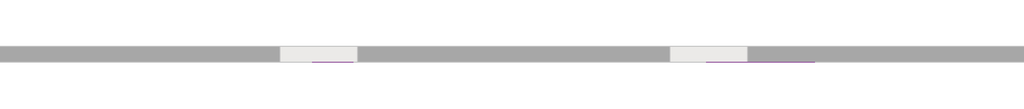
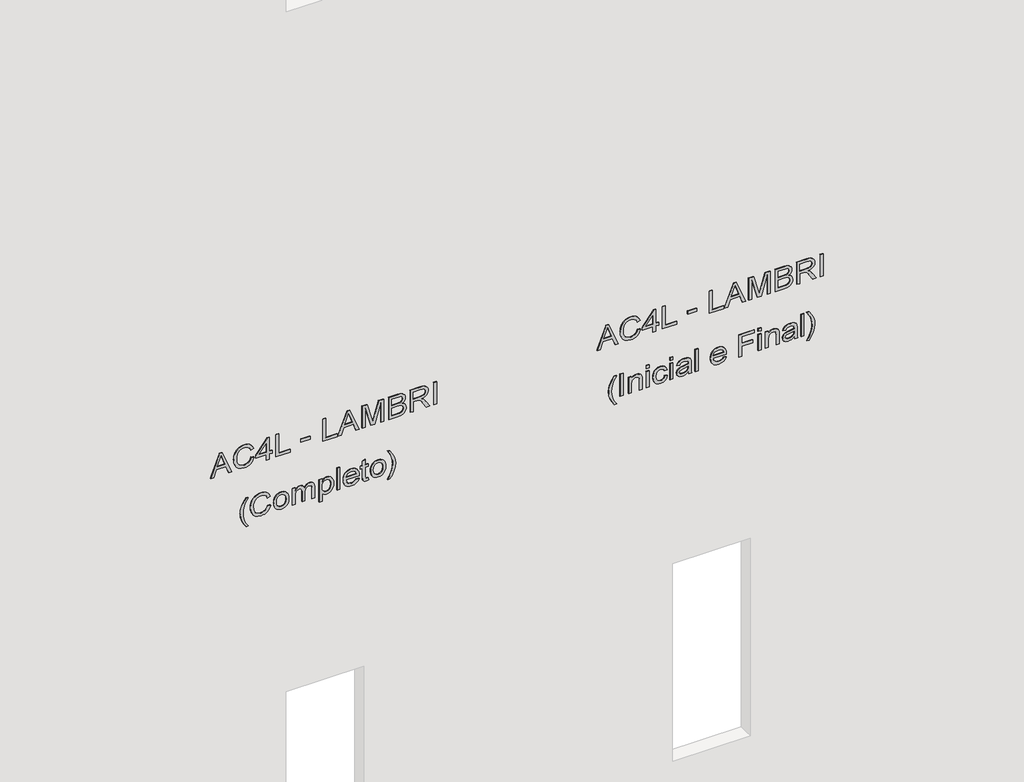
# One storey, part 8 of 11: 2 proxies.
"""IFC4 building model written with IfcOpenShell, lengths in millimetres."""

from ifc_helpers import new_model, si_unit, frame, origin, place, context, project, spatial, polyline, outline, extrude, element, save

model = new_model("IFC4")

# Units and contexts
model_context = context("Model", 3, world=origin())
ifc_project = project(units=[si_unit("LENGTHUNIT", "METRE", prefix="MILLI")], contexts=[model_context])

# Site, building, storey
site = spatial("IfcSite", under=ifc_project)
building = spatial("IfcBuilding", under=site)
storey = spatial("IfcBuildingStorey", under=building, Name="01 - Marelli - Planta Baixa - Painéis Lambri", Elevation=0.0)

# Proxies
placement = place(None, origin())
element("IfcBuildingElementProxy", 1, Name="300mm Arial", ObjectType="300mm Arial", at=placement, inside=storey, context=model_context, shape_type="SweptSolid", body=[
    extrude(outline(polyline([(5965.9244535, 42389.5842548), (5965.9244535, 42429.3890867), (6060.1022443, 42463.8228414), (6060.1022443, 42587.9462266), (5965.9244535, 42622.4535577), (5965.9244535, 42662.2583896), (6267.293384, 42541.9609772), (6267.293384, 42509.8816672), (5965.9244535, 42389.5842548)]), holes=[polyline([(6097.7733606, 42477.6552044), (6178.3395176, 42507.1593405), (6229.6222677, 42525.9213222), (6171.8647944, 42547.0377487), (6097.7733606, 42574.18744), (6097.7733606, 42477.6552044)])]), frame((0.0, 8778.3159498, 0.0), z_axis=(0.0, 1.0, 0.0), x_axis=(0.0, 0.0, 1.0)), (0.0, 0.0, 1.0), 10.0),
    extrude(outline(polyline([(6073.0516905, 42914.4047091), (6040.7884396, 42902.218618), (6017.5750857, 42882.4357637), (6003.5587816, 42856.2333686), (5998.8866803, 42824.7886551), (6002.3171799, 42797.8137078), (6012.6086787, 42772.8069292), (6029.8347531, 42751.94802), (6054.0689796, 42737.4166812), (6084.1617268, 42728.891016), (6118.9633635, 42726.0491276), (6147.3822477, 42728.4495576), (6174.9550032, 42735.6508477), (6199.3455795, 42748.7750378), (6218.2179258, 42768.9441682), (6230.3028494, 42795.5236424), (6234.3311572, 42827.8788639), (6230.6983225, 42855.9482601), (6219.7998184, 42878.793732), (6200.9550632, 42896.6360087), (6173.4834752, 42909.6958196), (6182.4597959, 42947.3669359), (6220.278065, 42930.7294727), (6235.6003501, 42918.9273584), (6248.5314022, 42904.802989), (6258.7999084, 42888.623079), (6266.1345557, 42870.6543428), (6272.0022735, 42829.3503918), (6267.4681279, 42791.4953345), (6253.8656912, 42756.9512152), (6231.526057, 42727.8241582), (6200.7803193, 42706.220288), (6162.8332915, 42692.8385805), (6118.8897871, 42688.3780113), (6077.2271512, 42692.3235457), (6038.3236302, 42704.1601489), (6005.2326447, 42723.54753), (5981.0076153, 42750.1453983), (5966.1635768, 42784.8458675), (5961.215564, 42828.5410514), (5962.8503396, 42850.963459), (5967.7546665, 42871.5832449), (5975.9285445, 42890.4004089), (5987.3719739, 42907.4149512), (6001.9286046, 42922.2911794), (6019.4420868, 42934.6934012), (6039.9124206, 42944.6216165), (6063.3396059, 42952.0758254), (6073.0516905, 42914.4047091)])), frame((0.0, 8778.3159498, 0.0), z_axis=(0.0, 1.0, 0.0), x_axis=(0.0, 0.0, 1.0)), (0.0, 0.0, 1.0), 10.0),
    extrude(outline(polyline([(5965.9244535, 43112.1780697), (5965.9244535, 43149.849186), (6036.5577966, 43149.849186), (6036.5577966, 43187.5203023), (6074.2289129, 43187.5203023), (6074.2289129, 43149.849186), (6262.5844944, 43149.849186), (6262.5844944, 43121.5958488), (6074.2289129, 42975.6202731), (6036.5577966, 42975.6202731), (6036.5577966, 43112.1780697), (5965.9244535, 43112.1780697)]), holes=[polyline([(6074.2289129, 43112.1780697), (6074.2289129, 43021.9734045), (6190.6267762, 43112.1780697), (6074.2289129, 43112.1780697)])]), frame((0.0, 8778.3159498, 0.0), z_axis=(0.0, 1.0, 0.0), x_axis=(0.0, 0.0, 1.0)), (0.0, 0.0, 1.0), 10.0),
    extrude(outline(polyline([(5965.9244535, 43234.6091977), (5965.9244535, 43422.9647792), (6003.5955698, 43422.9647792), (6003.5955698, 43272.280314), (6267.293384, 43272.280314), (6267.293384, 43234.6091977), (5965.9244535, 43234.6091977)])), frame((0.0, 8778.3159498, 0.0), z_axis=(0.0, 1.0, 0.0), x_axis=(0.0, 0.0, 1.0)), (0.0, 0.0, 1.0), 10.0),
    extrude(outline(polyline([(43677.2448143, 8778.3159498), (43559.5225759, 8778.3159498), (43559.5225759, 8788.3159498), (43677.2448143, 8788.3159498), (43677.2448143, 8778.3159498)])), frame((0.0, 0.0, 6055.3933548), z_axis=(0.0, 0.0, 1.0), x_axis=(1.0, 0.0, 0.0)), (0.0, 0.0, 1.0), 37.6711163),
    extrude(outline(polyline([(5965.9244535, 43842.0559482), (5965.9244535, 44030.4115297), (6003.5955698, 44030.4115297), (6003.5955698, 43879.7270645), (6267.293384, 43879.7270645), (6267.293384, 43842.0559482), (5965.9244535, 43842.0559482)])), frame((0.0, 8778.3159498, 0.0), z_axis=(0.0, 1.0, 0.0), x_axis=(0.0, 0.0, 1.0)), (0.0, 0.0, 1.0), 10.0),
    extrude(outline(polyline([(5965.9244535, 44037.6955932), (5965.9244535, 44077.5004251), (6060.1022443, 44111.9341798), (6060.1022443, 44236.057565), (5965.9244535, 44270.5648961), (5965.9244535, 44310.369728), (6267.293384, 44190.0723156), (6267.293384, 44157.9930056), (5965.9244535, 44037.6955932)]), holes=[polyline([(6097.7733606, 44125.7665428), (6178.3395176, 44155.2706788), (6229.6222677, 44174.0326606), (6171.8647944, 44195.1490871), (6097.7733606, 44222.2987784), (6097.7733606, 44125.7665428)])]), frame((0.0, 8778.3159498, 0.0), z_axis=(0.0, 1.0, 0.0), x_axis=(0.0, 0.0, 1.0)), (0.0, 0.0, 1.0), 10.0),
    extrude(outline(polyline([(5965.9244535, 44350.6160183), (5965.9244535, 44388.2871346), (6229.6222677, 44388.2871346), (5965.9244535, 44463.9972492), (5965.9244535, 44515.0592701), (6229.6222677, 44590.7693847), (5965.9244535, 44590.7693847), (5965.9244535, 44628.440501), (6267.293384, 44628.440501), (6267.293384, 44563.6196935), (6058.5571399, 44502.9927407), (6010.5117514, 44489.5282597), (6054.87832, 44477.0938482), (6267.293384, 44415.4368258), (6267.293384, 44350.6160183), (5965.9244535, 44350.6160183)])), frame((0.0, 8778.3159498, 0.0), z_axis=(0.0, 1.0, 0.0), x_axis=(0.0, 0.0, 1.0)), (0.0, 0.0, 1.0), 10.0),
    extrude(outline(polyline([(5965.9244535, 44694.3649546), (5965.9244535, 44808.4819495), (5971.1115897, 44856.7848555), (5977.5311305, 44874.8202703), (5986.4154807, 44889.5631412), (5998.6843452, 44901.6020795), (6015.2574291, 44911.5256963), (6034.7459778, 44918.1751634), (6055.7612368, 44920.3916524), (6080.9795475, 44917.1450938), (6102.6294029, 44907.405418), (6119.5887629, 44891.6324774), (6130.7355874, 44870.2861247), (6142.4802201, 44888.1559926), (6157.407032, 44900.8571185), (6174.4675596, 44908.4446846), (6192.613339, 44910.9738733), (6212.3318139, 44907.966438), (6231.1673721, 44898.9441321), (6247.1794359, 44884.6151284), (6258.4274279, 44865.6875997), (6265.076895, 44840.9935208), (6267.293384, 44809.3648663), (6267.293384, 44694.3649546), (5965.9244535, 44694.3649546)]), holes=[polyline([(6144.862256, 44732.0360709), (6229.6222677, 44732.0360709), (6229.6222677, 44795.6060797), (6225.6859303, 44844.0193502), (6220.084927, 44856.508944), (6211.1545915, 44865.7243879), (6199.7134615, 44871.4081648), (6186.5800742, 44873.302757), (6173.0512139, 44871.270209), (6162.0423452, 44865.1725649), (6153.6822268, 44855.0650071), (6148.0996175, 44841.0027179), (6144.862256, 44800.830004), (6144.862256, 44732.0360709)]), polyline([(6003.5955698, 44732.0360709), (6107.1911397, 44732.0360709), (6107.1911397, 44805.6124699), (6105.9311438, 44832.4402644), (6102.1511563, 44852.1495423), (6095.262566, 44866.0646788), (6084.6767616, 44875.510049), (6071.1387042, 44880.9179143), (6055.3933548, 44882.7205361), (6041.8369032, 44881.1846288), (6030.0094971, 44876.5769068), (6013.2708663, 44860.9051338), (6005.0670978, 44837.2503215), (6003.5955698, 44809.2912899), (6003.5955698, 44732.0360709)])]), frame((0.0, 8778.3159498, 0.0), z_axis=(0.0, 1.0, 0.0), x_axis=(0.0, 0.0, 1.0)), (0.0, 0.0, 1.0), 10.0),
    extrude(outline(polyline([(5965.9244535, 44972.1894373), (5965.9244535, 45009.8605536), (6097.7733606, 45009.8605536), (6097.7733606, 45055.3307682), (6096.4489854, 45077.1829588), (6089.2752865, 45095.0988119), (6069.7407526, 45115.0012279), (6028.3908163, 45143.3281415), (5965.9244535, 45182.5443622), (5965.9244535, 45226.3223196), (6047.5942565, 45176.0696391), (6086.3690188, 45145.5354335), (6102.4822501, 45124.1247013), (6112.4702463, 45161.2347976), (6120.4854753, 45175.6166844), (6130.5148582, 45187.2164635), (6155.1261637, 45202.5295516), (6184.8142407, 45207.6339143), (6208.6805851, 45204.5529025), (6230.3948199, 45195.3098674), (6247.9060028, 45180.9072873), (6259.1631919, 45162.3476406), (6265.260836, 45136.9545859), (6267.293384, 45102.0517816), (6267.293384, 44972.1894373), (5965.9244535, 44972.1894373)]), holes=[polyline([(6135.4444769, 45009.8605536), (6229.6222677, 45009.8605536), (6229.6222677, 45103.6704624), (6226.366512, 45133.4781011), (6216.599245, 45154.0335076), (6201.7919947, 45165.9804753), (6183.4162891, 45169.9627979), (6170.1081579, 45167.8750676), (6157.8484904, 45161.6118767), (6147.7133415, 45151.3295749), (6140.7787658, 45137.1845122), (6136.7780491, 45118.3949393), (6135.4444769, 45094.1791069), (6135.4444769, 45009.8605536)])]), frame((0.0, 8778.3159498, 0.0), z_axis=(0.0, 1.0, 0.0), x_axis=(0.0, 0.0, 1.0)), (0.0, 0.0, 1.0), 10.0),
    extrude(outline(polyline([(45315.9383736, 8778.3159498), (45278.2672573, 8778.3159498), (45278.2672573, 8788.3159498), (45315.9383736, 8788.3159498), (45315.9383736, 8778.3159498)])), frame((0.0, 0.0, 5965.9244535), z_axis=(0.0, 0.0, 1.0), x_axis=(1.0, 0.0, 0.0)), (0.0, 0.0, 1.0), 301.3689304),
    extrude(outline(polyline([(5149.3155348, 42848.4802556), (5149.3155348, 42876.7335928), (5197.5540614, 42847.8916444), (5245.8109821, 42827.2902527), (5294.0862969, 42814.9294176), (5342.3800058, 42810.8091393), (5380.2534572, 42813.1819781), (5417.9429677, 42820.3004948), (5475.7740173, 42841.4904977), (5535.4444769, 42876.7335928), (5535.4444769, 42848.4802556), (5484.934279, 42813.7889834), (5434.2033518, 42789.4719836), (5389.4137189, 42777.2215131), (5342.600735, 42773.138023), (5289.2210575, 42778.6010706), (5237.68079, 42794.9902135), (5190.2791949, 42819.2888193), (5149.3155348, 42848.4802556)])), frame((0.0, 8778.3159498, 0.0), z_axis=(0.0, 1.0, 0.0), x_axis=(0.0, 0.0, 1.0)), (0.0, 0.0, 1.0), 10.0),
    extrude(outline(polyline([(5341.2027835, 43131.0136279), (5308.9395325, 43118.8275368), (5285.7261786, 43099.0446825), (5271.7098746, 43072.8422874), (5267.0377732, 43041.3975739), (5270.4682728, 43014.4226266), (5280.7597717, 42989.4158479), (5297.9858461, 42968.5569388), (5322.2200725, 42954.0256), (5352.3128197, 42945.4999348), (5387.1144565, 42942.6580463), (5415.5333406, 42945.0584764), (5443.1060961, 42952.2597664), (5467.4966724, 42965.3839566), (5486.3690188, 42985.553087), (5498.4539423, 43012.1325611), (5502.4822501, 43044.4877826), (5498.8494154, 43072.5571788), (5487.9509113, 43095.4026507), (5469.1061561, 43113.2449275), (5441.6345681, 43126.3047383), (5450.6108888, 43163.9758546), (5488.4291579, 43147.3383914), (5503.751443, 43135.5362772), (5516.6824952, 43121.4119078), (5526.9510013, 43105.2319978), (5534.2856486, 43087.2632616), (5540.1533665, 43045.9593106), (5535.6192209, 43008.1042533), (5522.0167841, 42973.5601339), (5499.6771499, 42944.433077), (5468.9314122, 42922.8292068), (5430.9843844, 42909.4474992), (5387.0408801, 42904.98693), (5345.3782441, 42908.9324644), (5306.4747231, 42920.7690676), (5273.3837376, 42940.1564488), (5249.1587083, 42966.754317), (5234.3146698, 43001.4547862), (5229.3666569, 43045.1499702), (5231.0014325, 43067.5723778), (5235.9057594, 43088.1921636), (5244.0796375, 43107.0093277), (5255.5230668, 43124.02387), (5270.0796975, 43138.9000981), (5287.5931797, 43151.3023199), (5308.0635135, 43161.2305353), (5331.4906988, 43168.6847442), (5341.2027835, 43131.0136279)])), frame((0.0, 8778.3159498, 0.0), z_axis=(0.0, 1.0, 0.0), x_axis=(0.0, 0.0, 1.0)), (0.0, 0.0, 1.0), 10.0),
    extrude(outline(polyline([(5344.7344506, 43206.3558605), (5318.4124939, 43208.0642125), (5295.3646869, 43213.1892685), (5275.5910296, 43221.7310286), (5259.0915221, 43233.6894927), (5246.0868936, 43248.4162688), (5236.7978732, 43265.262965), (5231.224461, 43284.2295811), (5229.3666569, 43305.3161172), (5232.7419742, 43331.9047884), (5242.8679261, 43356.3413499), (5259.1007192, 43376.9151505), (5280.7965599, 43391.9155389), (5309.767267, 43401.0758005), (5347.8246594, 43404.1292211), (5372.7049786, 43402.402475), (5394.7388108, 43397.2222366), (5413.9261561, 43388.5885061), (5430.2670145, 43376.5012833), (5443.3199275, 43361.6917337), (5452.6434368, 43344.8910228), (5458.2375424, 43326.0991507), (5460.1022443, 43305.3161172), (5458.5709355, 43286.4897561), (5453.9770091, 43269.1533171), (5446.3204651, 43253.3068001), (5435.6013034, 43238.9502053), (5418.830483, 43224.6901794), (5398.095734, 43214.5044467), (5373.3970566, 43208.393007), (5344.7344506, 43206.3558605)]), holes=[polyline([(5344.808027, 43244.0269768), (5378.8830968, 43248.3863784), (5403.1173232, 43261.4645834), (5417.6026768, 43281.1462701), (5422.431128, 43305.3161172), (5417.5842827, 43329.2376439), (5403.0437468, 43348.9101336), (5379.0854319, 43362.071112), (5345.9852494, 43366.4581048), (5311.1468245, 43362.0987031), (5286.535519, 43349.0204982), (5271.9122097, 43329.3755997), (5267.0377732, 43305.3161172), (5271.8846185, 43281.1462701), (5286.4251544, 43261.4645834), (5310.7145631, 43248.3863784), (5344.808027, 43244.0269768)])]), frame((0.0, 8778.3159498, 0.0), z_axis=(0.0, 1.0, 0.0), x_axis=(0.0, 0.0, 1.0)), (0.0, 0.0, 1.0), 10.0),
    extrude(outline(polyline([(5234.0755465, 43446.5092269), (5234.0755465, 43484.1803432), (5345.6909438, 43484.1803432), (5371.6082304, 43485.615083), (5390.6461236, 43489.9193024), (5404.368122, 43497.4240951), (5414.3377241, 43508.4605549), (5420.407777, 43521.8330655), (5422.431128, 43536.3460102), (5419.3961015, 43553.4249318), (5410.2910222, 43564.9304412), (5395.0974958, 43571.4695437), (5373.7971282, 43573.6492445), (5234.0755465, 43573.6492445), (5234.0755465, 43611.3203608), (5359.008272, 43611.3203608), (5387.7214617, 43615.0083778), (5407.3479662, 43626.0724288), (5418.6603375, 43642.709892), (5422.431128, 43663.1181457), (5420.9596, 43674.6788374), (5416.5450161, 43684.6392424), (5409.7300021, 43692.3831584), (5401.0571841, 43697.2943831), (5369.6032735, 43700.789262), (5234.0755465, 43700.789262), (5234.0755465, 43738.4603783), (5385.7900813, 43738.4603783), (5418.7615051, 43734.1469619), (5441.8920855, 43721.2067127), (5455.5497046, 43700.2650302), (5460.1022443, 43671.9473136), (5457.366122, 43652.4219767), (5449.1577549, 43634.8280203), (5435.4771432, 43619.1654443), (5416.3242869, 43605.4342489), (5434.7643719, 43597.2304804), (5448.5875379, 43584.6857043), (5457.2235677, 43567.8918912), (5460.1022443, 43546.9410116), (5457.27875, 43527.3880836), (5448.808267, 43510.0792357), (5435.702471, 43495.5111087), (5418.9730372, 43484.1803432), (5455.3933548, 43484.1803432), (5455.3933548, 43446.5092269), (5234.0755465, 43446.5092269)])), frame((0.0, 8778.3159498, 0.0), z_axis=(0.0, 1.0, 0.0), x_axis=(0.0, 0.0, 1.0)), (0.0, 0.0, 1.0), 10.0),
    extrude(outline(polyline([(5149.3155348, 43794.9670528), (5149.3155348, 43832.6381691), (5263.5061061, 43832.6381691), (5249.9956398, 43843.2791558), (5239.0419534, 43856.5137106), (5231.785481, 43871.9739514), (5229.3666569, 43889.2919963), (5232.9810975, 43913.7101638), (5243.8244193, 43936.9327147), (5261.4459669, 43956.8719188), (5285.3950848, 43971.4400459), (5314.2094421, 43980.3519872), (5346.4267078, 43983.3226343), (5376.7217901, 43980.692278), (5404.4784866, 43972.8012092), (5427.9861461, 43959.7413984), (5445.5341173, 43941.604816), (5456.4602125, 43919.3295612), (5460.1022443, 43893.8537331), (5457.4994792, 43874.7238693), (5449.6911838, 43858.6842143), (5436.6773583, 43844.9254277), (5418.4580024, 43832.6381691), (5455.3933548, 43832.6381691), (5455.3933548, 43794.9670528), (5149.3155348, 43794.9670528)]), holes=[polyline([(5342.968617, 43832.6381691), (5377.1356573, 43836.9883737), (5402.0872537, 43850.0389874), (5417.3451594, 43868.7365899), (5422.431128, 43890.0277603), (5417.6486621, 43911.2361573), (5403.3012642, 43929.243981), (5379.3521464, 43941.5496337), (5345.7645202, 43945.651518), (5310.7237602, 43941.4484662), (5286.2412134, 43928.8393108), (5271.8386333, 43910.3440435), (5267.0377732, 43888.4826559), (5271.6730864, 43866.9707563), (5285.5790258, 43848.9353415), (5309.1970499, 43836.7124622), (5342.968617, 43832.6381691)])]), frame((0.0, 8778.3159498, 0.0), z_axis=(0.0, 1.0, 0.0), x_axis=(0.0, 0.0, 1.0)), (0.0, 0.0, 1.0), 10.0),
    extrude(outline(polyline([(44063.3737565, 8778.3159498), (44025.7026401, 8778.3159498), (44025.7026401, 8788.3159498), (44063.3737565, 8788.3159498), (44063.3737565, 8778.3159498)])), frame((0.0, 0.0, 5234.0755465), z_axis=(0.0, 0.0, 1.0), x_axis=(1.0, 0.0, 0.0)), (0.0, 0.0, 1.0), 301.3689304),
    extrude(outline(polyline([(5300.0, 44274.8323273), (5285.1191733, 44264.274114), (5274.9104479, 44250.5521156), (5269.0059419, 44233.666332), (5267.0377732, 44213.6167633), (5271.2868103, 44186.9545157), (5284.0339214, 44165.0931281), (5304.7640718, 44149.945587), (5332.9622268, 44143.4248786), (5332.9622268, 44312.7241728), (5343.1157698, 44312.944902), (5369.3687487, 44311.158375), (5392.5039277, 44305.7987942), (5412.5213067, 44296.8661595), (5429.4208859, 44284.360471), (5442.8439802, 44269.0404851), (5452.4319047, 44251.6649586), (5458.1846594, 44232.2338915), (5460.1022443, 44210.7472837), (5458.1800609, 44188.5456053), (5452.4135106, 44168.5144307), (5442.8025935, 44150.6537598), (5429.3473095, 44134.9635927), (5412.4109422, 44122.1842919), (5392.3567749, 44113.0562199), (5369.1848077, 44107.5793767), (5342.8950406, 44105.7537623), (5317.467497, 44107.5609826), (5295.0427901, 44112.9826435), (5275.62092, 44122.018745), (5259.2018867, 44134.6692871), (5246.1489737, 44150.4008409), (5236.8254644, 44168.6799776), (5231.2313588, 44189.506697), (5229.3666569, 44212.8809993), (5233.6892704, 44248.5379617), (5246.6571107, 44277.2235602), (5267.4608375, 44298.4595484), (5295.2911105, 44311.7676796), (5300.0, 44274.8323273)]), holes=[polyline([(5370.6333431, 44143.4248786), (5391.8693312, 44149.6144932), (5408.3412476, 44164.2102113), (5418.9086579, 44185.2070762), (5422.431128, 44210.6001309), (5418.0165441, 44238.2280688), (5404.7727922, 44260.1906239), (5390.535759, 44270.17862), (5370.6333431, 44275.2737857), (5370.6333431, 44143.4248786)])]), frame((0.0, 8778.3159498, 0.0), z_axis=(0.0, 1.0, 0.0), x_axis=(0.0, 0.0, 1.0)), (0.0, 0.0, 1.0), 10.0),
    extrude(outline(polyline([(5265.4926689, 44430.6671404), (5267.0377732, 44414.2596035), (5269.576159, 44401.4205218), (5276.4555523, 44394.9825869), (5295.8797217, 44392.9960241), (5417.7222385, 44392.9960241), (5417.7222385, 44430.6671404), (5455.3933548, 44430.6671404), (5455.3933548, 44392.9960241), (5531.3241986, 44392.9960241), (5509.1777025, 44355.3249078), (5455.3933548, 44355.3249078), (5455.3933548, 44327.0715706), (5417.7222385, 44327.0715706), (5417.7222385, 44355.3249078), (5294.7760757, 44355.3249078), (5267.7919313, 44356.465342), (5252.0281878, 44359.8866446), (5242.849532, 44366.1038503), (5235.6206508, 44375.631994), (5230.9301554, 44389.1148691), (5229.3666569, 44407.1962691), (5232.9719005, 44435.37603), (5265.4926689, 44430.6671404)])), frame((0.0, 8778.3159498, 0.0), z_axis=(0.0, 1.0, 0.0), x_axis=(0.0, 0.0, 1.0)), (0.0, 0.0, 1.0), 10.0),
    extrude(outline(polyline([(5344.7344506, 44458.9204777), (5318.4124939, 44460.6288297), (5295.3646869, 44465.7538857), (5275.5910296, 44474.2956458), (5259.0915221, 44486.2541099), (5246.0868936, 44500.980886), (5236.7978732, 44517.8275821), (5231.224461, 44536.7941983), (5229.3666569, 44557.8807344), (5232.7419742, 44584.4694056), (5242.8679261, 44608.9059671), (5259.1007192, 44629.4797677), (5280.7965599, 44644.480156), (5309.767267, 44653.6404177), (5347.8246594, 44656.6938383), (5372.7049786, 44654.9670922), (5394.7388108, 44649.7868538), (5413.9261561, 44641.1531232), (5430.2670145, 44629.0659004), (5443.3199275, 44614.2563509), (5452.6434368, 44597.45564), (5458.2375424, 44578.6637678), (5460.1022443, 44557.8807344), (5458.5709355, 44539.0543733), (5453.9770091, 44521.7179342), (5446.3204651, 44505.8714173), (5435.6013034, 44491.5148224), (5418.830483, 44477.2547966), (5398.095734, 44467.0690639), (5373.3970566, 44460.9576242), (5344.7344506, 44458.9204777)]), holes=[polyline([(5344.808027, 44496.591594), (5378.8830968, 44500.9509956), (5403.1173232, 44514.0292005), (5417.6026768, 44533.7108873), (5422.431128, 44557.8807344), (5417.5842827, 44581.8022611), (5403.0437468, 44601.4747508), (5379.0854319, 44614.6357292), (5345.9852494, 44619.022722), (5311.1468245, 44614.6633203), (5286.535519, 44601.5851154), (5271.9122097, 44581.9402169), (5267.0377732, 44557.8807344), (5271.8846185, 44533.7108873), (5286.4251544, 44514.0292005), (5310.7145631, 44500.9509956), (5344.808027, 44496.591594)])]), frame((0.0, 8778.3159498, 0.0), z_axis=(0.0, 1.0, 0.0), x_axis=(0.0, 0.0, 1.0)), (0.0, 0.0, 1.0), 10.0),
    extrude(outline(polyline([(5149.3155348, 44708.4916232), (5190.2791949, 44737.5451038), (5237.68079, 44761.8713007), (5289.2210575, 44778.343217), (5342.600735, 44783.8338558), (5389.4137189, 44779.7503657), (5434.2033518, 44767.4998952), (5484.934279, 44743.1828953), (5535.4444769, 44708.4916232), (5535.4444769, 44680.238286), (5475.1854061, 44715.7021103), (5446.8400984, 44727.6766692), (5417.2807801, 44736.671384), (5379.9775458, 44743.7899006), (5342.3800058, 44746.1627395), (5294.0862969, 44742.0424612), (5245.8109821, 44729.6816261), (5197.5540614, 44709.0802344), (5149.3155348, 44680.238286), (5149.3155348, 44708.4916232)])), frame((0.0, 8778.3159498, 0.0), z_axis=(0.0, 1.0, 0.0), x_axis=(0.0, 0.0, 1.0)), (0.0, 0.0, 1.0), 10.0),
])
element("IfcBuildingElementProxy", 2, Name="300mm Arial", ObjectType="300mm Arial", at=placement, inside=storey, context=model_context, shape_type="SweptSolid", body=[
    extrude(outline(polyline([(5965.9244535, 47389.5842548), (5965.9244535, 47429.3890867), (6060.1022443, 47463.8228414), (6060.1022443, 47587.9462266), (5965.9244535, 47622.4535577), (5965.9244535, 47662.2583896), (6267.293384, 47541.9609772), (6267.293384, 47509.8816672), (5965.9244535, 47389.5842548)]), holes=[polyline([(6097.7733606, 47477.6552044), (6178.3395176, 47507.1593405), (6229.6222677, 47525.9213222), (6171.8647944, 47547.0377487), (6097.7733606, 47574.18744), (6097.7733606, 47477.6552044)])]), frame((0.0, 8778.3159498, 0.0), z_axis=(0.0, 1.0, 0.0), x_axis=(0.0, 0.0, 1.0)), (0.0, 0.0, 1.0), 10.0),
    extrude(outline(polyline([(6073.0516905, 47914.4047091), (6040.7884396, 47902.218618), (6017.5750857, 47882.4357637), (6003.5587816, 47856.2333686), (5998.8866803, 47824.7886551), (6002.3171799, 47797.8137078), (6012.6086787, 47772.8069292), (6029.8347531, 47751.94802), (6054.0689796, 47737.4166812), (6084.1617268, 47728.891016), (6118.9633635, 47726.0491276), (6147.3822477, 47728.4495576), (6174.9550032, 47735.6508477), (6199.3455795, 47748.7750378), (6218.2179258, 47768.9441682), (6230.3028494, 47795.5236424), (6234.3311572, 47827.8788639), (6230.6983225, 47855.9482601), (6219.7998184, 47878.793732), (6200.9550632, 47896.6360087), (6173.4834752, 47909.6958196), (6182.4597959, 47947.3669359), (6220.278065, 47930.7294727), (6235.6003501, 47918.9273584), (6248.5314022, 47904.802989), (6258.7999084, 47888.623079), (6266.1345557, 47870.6543428), (6272.0022735, 47829.3503918), (6267.4681279, 47791.4953345), (6253.8656912, 47756.9512152), (6231.526057, 47727.8241582), (6200.7803193, 47706.220288), (6162.8332915, 47692.8385805), (6118.8897871, 47688.3780113), (6077.2271512, 47692.3235457), (6038.3236302, 47704.1601489), (6005.2326447, 47723.54753), (5981.0076153, 47750.1453983), (5966.1635768, 47784.8458675), (5961.215564, 47828.5410514), (5962.8503396, 47850.963459), (5967.7546665, 47871.5832449), (5975.9285445, 47890.4004089), (5987.3719739, 47907.4149512), (6001.9286046, 47922.2911794), (6019.4420868, 47934.6934012), (6039.9124206, 47944.6216165), (6063.3396059, 47952.0758254), (6073.0516905, 47914.4047091)])), frame((0.0, 8778.3159498, 0.0), z_axis=(0.0, 1.0, 0.0), x_axis=(0.0, 0.0, 1.0)), (0.0, 0.0, 1.0), 10.0),
    extrude(outline(polyline([(5965.9244535, 48112.1780697), (5965.9244535, 48149.849186), (6036.5577966, 48149.849186), (6036.5577966, 48187.5203023), (6074.2289129, 48187.5203023), (6074.2289129, 48149.849186), (6262.5844944, 48149.849186), (6262.5844944, 48121.5958488), (6074.2289129, 47975.6202731), (6036.5577966, 47975.6202731), (6036.5577966, 48112.1780697), (5965.9244535, 48112.1780697)]), holes=[polyline([(6074.2289129, 48112.1780697), (6074.2289129, 48021.9734045), (6190.6267762, 48112.1780697), (6074.2289129, 48112.1780697)])]), frame((0.0, 8778.3159498, 0.0), z_axis=(0.0, 1.0, 0.0), x_axis=(0.0, 0.0, 1.0)), (0.0, 0.0, 1.0), 10.0),
    extrude(outline(polyline([(5965.9244535, 48234.6091977), (5965.9244535, 48422.9647792), (6003.5955698, 48422.9647792), (6003.5955698, 48272.280314), (6267.293384, 48272.280314), (6267.293384, 48234.6091977), (5965.9244535, 48234.6091977)])), frame((0.0, 8778.3159498, 0.0), z_axis=(0.0, 1.0, 0.0), x_axis=(0.0, 0.0, 1.0)), (0.0, 0.0, 1.0), 10.0),
    extrude(outline(polyline([(48677.2448143, 8778.3159498), (48559.5225759, 8778.3159498), (48559.5225759, 8788.3159498), (48677.2448143, 8788.3159498), (48677.2448143, 8778.3159498)])), frame((0.0, 0.0, 6055.3933548), z_axis=(0.0, 0.0, 1.0), x_axis=(1.0, 0.0, 0.0)), (0.0, 0.0, 1.0), 37.6711163),
    extrude(outline(polyline([(5965.9244535, 48842.0559482), (5965.9244535, 49030.4115297), (6003.5955698, 49030.4115297), (6003.5955698, 48879.7270645), (6267.293384, 48879.7270645), (6267.293384, 48842.0559482), (5965.9244535, 48842.0559482)])), frame((0.0, 8778.3159498, 0.0), z_axis=(0.0, 1.0, 0.0), x_axis=(0.0, 0.0, 1.0)), (0.0, 0.0, 1.0), 10.0),
    extrude(outline(polyline([(5965.9244535, 49037.6955932), (5965.9244535, 49077.5004251), (6060.1022443, 49111.9341798), (6060.1022443, 49236.057565), (5965.9244535, 49270.5648961), (5965.9244535, 49310.369728), (6267.293384, 49190.0723156), (6267.293384, 49157.9930056), (5965.9244535, 49037.6955932)]), holes=[polyline([(6097.7733606, 49125.7665428), (6178.3395176, 49155.2706788), (6229.6222677, 49174.0326606), (6171.8647944, 49195.1490871), (6097.7733606, 49222.2987784), (6097.7733606, 49125.7665428)])]), frame((0.0, 8778.3159498, 0.0), z_axis=(0.0, 1.0, 0.0), x_axis=(0.0, 0.0, 1.0)), (0.0, 0.0, 1.0), 10.0),
    extrude(outline(polyline([(5965.9244535, 49350.6160183), (5965.9244535, 49388.2871346), (6229.6222677, 49388.2871346), (5965.9244535, 49463.9972492), (5965.9244535, 49515.0592701), (6229.6222677, 49590.7693847), (5965.9244535, 49590.7693847), (5965.9244535, 49628.440501), (6267.293384, 49628.440501), (6267.293384, 49563.6196935), (6058.5571399, 49502.9927407), (6010.5117514, 49489.5282597), (6054.87832, 49477.0938482), (6267.293384, 49415.4368258), (6267.293384, 49350.6160183), (5965.9244535, 49350.6160183)])), frame((0.0, 8778.3159498, 0.0), z_axis=(0.0, 1.0, 0.0), x_axis=(0.0, 0.0, 1.0)), (0.0, 0.0, 1.0), 10.0),
    extrude(outline(polyline([(5965.9244535, 49694.3649546), (5965.9244535, 49808.4819495), (5971.1115897, 49856.7848555), (5977.5311305, 49874.8202703), (5986.4154807, 49889.5631412), (5998.6843452, 49901.6020795), (6015.2574291, 49911.5256963), (6034.7459778, 49918.1751634), (6055.7612368, 49920.3916524), (6080.9795475, 49917.1450938), (6102.6294029, 49907.405418), (6119.5887629, 49891.6324774), (6130.7355874, 49870.2861247), (6142.4802201, 49888.1559926), (6157.407032, 49900.8571185), (6174.4675596, 49908.4446846), (6192.613339, 49910.9738733), (6212.3318139, 49907.966438), (6231.1673721, 49898.9441321), (6247.1794359, 49884.6151284), (6258.4274279, 49865.6875997), (6265.076895, 49840.9935208), (6267.293384, 49809.3648663), (6267.293384, 49694.3649546), (5965.9244535, 49694.3649546)]), holes=[polyline([(6144.862256, 49732.0360709), (6229.6222677, 49732.0360709), (6229.6222677, 49795.6060797), (6225.6859303, 49844.0193502), (6220.084927, 49856.508944), (6211.1545915, 49865.7243879), (6199.7134615, 49871.4081648), (6186.5800742, 49873.302757), (6173.0512139, 49871.270209), (6162.0423452, 49865.1725649), (6153.6822268, 49855.0650071), (6148.0996175, 49841.0027179), (6144.862256, 49800.830004), (6144.862256, 49732.0360709)]), polyline([(6003.5955698, 49732.0360709), (6107.1911397, 49732.0360709), (6107.1911397, 49805.6124699), (6105.9311438, 49832.4402644), (6102.1511563, 49852.1495423), (6095.262566, 49866.0646788), (6084.6767616, 49875.510049), (6071.1387042, 49880.9179143), (6055.3933548, 49882.7205361), (6041.8369032, 49881.1846288), (6030.0094971, 49876.5769068), (6013.2708663, 49860.9051338), (6005.0670978, 49837.2503215), (6003.5955698, 49809.2912899), (6003.5955698, 49732.0360709)])]), frame((0.0, 8778.3159498, 0.0), z_axis=(0.0, 1.0, 0.0), x_axis=(0.0, 0.0, 1.0)), (0.0, 0.0, 1.0), 10.0),
    extrude(outline(polyline([(5965.9244535, 49972.1894373), (5965.9244535, 50009.8605536), (6097.7733606, 50009.8605536), (6097.7733606, 50055.3307682), (6096.4489854, 50077.1829588), (6089.2752865, 50095.0988119), (6069.7407526, 50115.0012279), (6028.3908163, 50143.3281415), (5965.9244535, 50182.5443622), (5965.9244535, 50226.3223196), (6047.5942565, 50176.0696391), (6086.3690188, 50145.5354335), (6102.4822501, 50124.1247013), (6112.4702463, 50161.2347976), (6120.4854753, 50175.6166844), (6130.5148582, 50187.2164635), (6155.1261637, 50202.5295516), (6184.8142407, 50207.6339143), (6208.6805851, 50204.5529025), (6230.3948199, 50195.3098674), (6247.9060028, 50180.9072873), (6259.1631919, 50162.3476406), (6265.260836, 50136.9545859), (6267.293384, 50102.0517816), (6267.293384, 49972.1894373), (5965.9244535, 49972.1894373)]), holes=[polyline([(6135.4444769, 50009.8605536), (6229.6222677, 50009.8605536), (6229.6222677, 50103.6704624), (6226.366512, 50133.4781011), (6216.599245, 50154.0335076), (6201.7919947, 50165.9804753), (6183.4162891, 50169.9627979), (6170.1081579, 50167.8750676), (6157.8484904, 50161.6118767), (6147.7133415, 50151.3295749), (6140.7787658, 50137.1845122), (6136.7780491, 50118.3949393), (6135.4444769, 50094.1791069), (6135.4444769, 50009.8605536)])]), frame((0.0, 8778.3159498, 0.0), z_axis=(0.0, 1.0, 0.0), x_axis=(0.0, 0.0, 1.0)), (0.0, 0.0, 1.0), 10.0),
    extrude(outline(polyline([(50315.9383736, 8778.3159498), (50278.2672573, 8778.3159498), (50278.2672573, 8788.3159498), (50315.9383736, 8788.3159498), (50315.9383736, 8778.3159498)])), frame((0.0, 0.0, 5965.9244535), z_axis=(0.0, 0.0, 1.0), x_axis=(1.0, 0.0, 0.0)), (0.0, 0.0, 1.0), 301.3689304),
    extrude(outline(polyline([(5149.3155348, 47613.0357787), (5149.3155348, 47641.2891159), (5197.5540614, 47612.4471675), (5245.8109821, 47591.8457757), (5294.0862969, 47579.4849407), (5342.3800058, 47575.3646624), (5380.2534572, 47577.7375012), (5417.9429677, 47584.8560178), (5475.7740173, 47606.0460208), (5535.4444769, 47641.2891159), (5535.4444769, 47613.0357787), (5484.934279, 47578.3445065), (5434.2033518, 47554.0275066), (5389.4137189, 47541.7770362), (5342.600735, 47537.6935461), (5289.2210575, 47543.1565937), (5237.68079, 47559.5457366), (5190.2791949, 47583.8443424), (5149.3155348, 47613.0357787)])), frame((0.0, 8778.3159498, 0.0), z_axis=(0.0, 1.0, 0.0), x_axis=(0.0, 0.0, 1.0)), (0.0, 0.0, 1.0), 10.0),
    extrude(outline(polyline([(47726.0491276, 8778.3159498), (47688.3780113, 8778.3159498), (47688.3780113, 8788.3159498), (47726.0491276, 8788.3159498), (47726.0491276, 8778.3159498)])), frame((0.0, 0.0, 5234.0755465), z_axis=(0.0, 0.0, 1.0), x_axis=(1.0, 0.0, 0.0)), (0.0, 0.0, 1.0), 301.3689304),
    extrude(outline(polyline([(5234.0755465, 47796.6824707), (5234.0755465, 47834.353587), (5351.5034793, 47834.353587), (5386.2131456, 47838.6486093), (5398.5877762, 47844.0173871), (5407.6422718, 47851.5336761), (5418.7339139, 47870.3416431), (5422.431128, 47892.4053658), (5420.7848561, 47906.3021082), (5415.8460403, 47918.2674701), (5408.1481095, 47927.6024757), (5398.2244927, 47933.6081493), (5364.8943839, 47937.9491568), (5234.0755465, 47937.9491568), (5234.0755465, 47975.6202731), (5369.9711555, 47975.6202731), (5406.391473, 47973.6337103), (5434.0929872, 47962.3397331), (5444.6328064, 47952.2413723), (5452.9285454, 47938.0595214), (5458.3088196, 47921.0541762), (5460.1022443, 47902.4853325), (5457.8765582, 47881.5068617), (5451.1995, 47863.1587472), (5440.0710697, 47847.4409889), (5424.4912672, 47834.353587), (5455.3933548, 47834.353587), (5455.3933548, 47796.6824707), (5234.0755465, 47796.6824707)])), frame((0.0, 8778.3159498, 0.0), z_axis=(0.0, 1.0, 0.0), x_axis=(0.0, 0.0, 1.0)), (0.0, 0.0, 1.0), 10.0),
    extrude(outline(polyline([(48065.0891743, 8778.3159498), (48027.418058, 8778.3159498), (48027.418058, 8788.3159498), (48065.0891743, 8788.3159498), (48065.0891743, 8778.3159498)])), frame((0.0, 0.0, 5497.7733606), z_axis=(0.0, 0.0, 1.0), x_axis=(1.0, 0.0, 0.0)), (0.0, 0.0, 1.0), 37.6711163),
    extrude(outline(polyline([(48065.0891743, 8778.3159498), (48027.418058, 8778.3159498), (48027.418058, 8788.3159498), (48065.0891743, 8788.3159498), (48065.0891743, 8778.3159498)])), frame((0.0, 0.0, 5234.0755465), z_axis=(0.0, 0.0, 1.0), x_axis=(1.0, 0.0, 0.0)), (0.0, 0.0, 1.0), 221.3178083),
    extrude(outline(polyline([(5314.1266686, 48262.8625349), (5293.2493654, 48256.4337971), (5278.5892679, 48244.799529), (5269.9256469, 48228.8058592), (5267.0377732, 48209.2989165), (5271.6638893, 48185.2670251), (5285.5422376, 48166.2935112), (5309.6477053, 48153.9602673), (5344.9551798, 48149.849186), (5379.7936048, 48154.0522378), (5403.816299, 48166.6613932), (5417.7774208, 48185.984395), (5422.431128, 48210.328986), (5420.0674862, 48226.8192965), (5412.9765607, 48240.6792506), (5401.1951398, 48251.3202373), (5384.7600117, 48258.1536454), (5389.4689012, 48295.8247617), (5419.4512838, 48285.5700511), (5441.7081445, 48267.3139071), (5455.5037194, 48241.8656701), (5460.1022443, 48210.0346804), (5456.7545181, 48183.3908269), (5446.7113397, 48158.7887185), (5429.9635118, 48138.224115), (5406.5018376, 48123.6927762), (5377.448357, 48115.0567463), (5343.9251102, 48112.1780697), (5317.8675687, 48113.8634291), (5295.024396, 48118.9195073), (5275.3955923, 48127.3463042), (5258.9811575, 48139.14382), (5246.0248135, 48153.7188448), (5236.7702821, 48170.4781689), (5231.2175632, 48189.4217924), (5229.3666569, 48210.5497152), (5234.6733547, 48243.1808482), (5250.593448, 48270.2937513), (5275.9129264, 48290.0306203), (5309.4177791, 48300.5336513), (5314.1266686, 48262.8625349)])), frame((0.0, 8778.3159498, 0.0), z_axis=(0.0, 1.0, 0.0), x_axis=(0.0, 0.0, 1.0)), (0.0, 0.0, 1.0), 10.0),
    extrude(outline(polyline([(48371.1669943, 8778.3159498), (48333.495878, 8778.3159498), (48333.495878, 8788.3159498), (48371.1669943, 8788.3159498), (48371.1669943, 8778.3159498)])), frame((0.0, 0.0, 5497.7733606), z_axis=(0.0, 0.0, 1.0), x_axis=(1.0, 0.0, 0.0)), (0.0, 0.0, 1.0), 37.6711163),
    extrude(outline(polyline([(48371.1669943, 8778.3159498), (48333.495878, 8778.3159498), (48333.495878, 8788.3159498), (48371.1669943, 8788.3159498), (48371.1669943, 8778.3159498)])), frame((0.0, 0.0, 5234.0755465), z_axis=(0.0, 0.0, 1.0), x_axis=(1.0, 0.0, 0.0)), (0.0, 0.0, 1.0), 221.3178083),
    extrude(outline(polyline([(5262.3288837, 48568.9403549), (5234.0755465, 48578.358134), (5234.0755465, 48616.0292503), (5265.7501862, 48608.5244576), (5331.1963932, 48606.6114712), (5378.0645594, 48606.6114712), (5411.0267861, 48604.7720613), (5425.1442577, 48600.2287186), (5436.5945848, 48593.2205666), (5445.856014, 48582.6531563), (5453.406792, 48567.4320388), (5458.4283812, 48547.2445143), (5460.1022443, 48521.7778832), (5458.207652, 48495.2260002), (5452.5238752, 48472.0770256), (5443.3452194, 48453.149497), (5430.9659903, 48439.2619516), (5414.7791825, 48429.5038817), (5394.1777908, 48422.9647792), (5389.4689012, 48460.6358956), (5405.1314772, 48468.1222942), (5415.1838527, 48478.8092661), (5420.6193092, 48494.4810391), (5422.431128, 48516.9218408), (5419.7088012, 48541.1652643), (5411.5418209, 48558.5660827), (5400.5421493, 48566.3467869), (5383.7299421, 48568.9403549), (5375.3422326, 48568.7196257), (5368.3524747, 48541.9010283), (5362.3927864, 48503.3837834), (5356.7274037, 48470.7894386), (5344.3665686, 48444.4122996), (5334.8752131, 48433.8081011), (5322.7351073, 48425.4663768), (5308.5532564, 48420.0585115), (5292.9366657, 48418.2558897), (5267.6079903, 48423.0291586), (5247.2457219, 48437.3489653), (5233.8364232, 48460.5715162), (5229.3666569, 48492.0530179), (5231.224461, 48512.9211241), (5236.7978732, 48532.4096728), (5246.896234, 48550.9417283), (5262.3288837, 48568.9403549)]), holes=[polyline([(5337.6711163, 48568.9403549), (5327.0025384, 48568.7196257), (5310.0799667, 48567.2297037), (5297.8662844, 48562.7599374), (5286.0112871, 48552.6799707), (5276.0508821, 48538.1854201), (5269.2910505, 48520.3063552), (5267.0377732, 48500.0728454), (5269.0795183, 48480.9889669), (5275.2047535, 48467.1474069), (5284.3834093, 48458.7321062), (5295.5854161, 48455.927006), (5310.0799667, 48461.0773539), (5320.0127805, 48475.7558456), (5326.1196217, 48508.1662493), (5337.6711163, 48568.9403549)])]), frame((0.0, 8778.3159498, 0.0), z_axis=(0.0, 1.0, 0.0), x_axis=(0.0, 0.0, 1.0)), (0.0, 0.0, 1.0), 10.0),
    extrude(outline(polyline([(48696.0803725, 8778.3159498), (48658.4092562, 8778.3159498), (48658.4092562, 8788.3159498), (48696.0803725, 8788.3159498), (48696.0803725, 8778.3159498)])), frame((0.0, 0.0, 5234.0755465), z_axis=(0.0, 0.0, 1.0), x_axis=(1.0, 0.0, 0.0)), (0.0, 0.0, 1.0), 301.3689304),
    extrude(outline(polyline([(5300.0, 49025.2611818), (5285.1191733, 49014.7029685), (5274.9104479, 49000.9809701), (5269.0059419, 48984.0951865), (5267.0377732, 48964.0456178), (5271.2868103, 48937.3833702), (5284.0339214, 48915.5219826), (5304.7640718, 48900.3744414), (5332.9622268, 48893.8537331), (5332.9622268, 49063.1530273), (5343.1157698, 49063.3737565), (5369.3687487, 49061.5872295), (5392.5039277, 49056.2276487), (5412.5213067, 49047.295014), (5429.4208859, 49034.7893254), (5442.8439802, 49019.4693396), (5452.4319047, 49002.0938131), (5458.1846594, 48982.662746), (5460.1022443, 48961.1761382), (5458.1800609, 48938.9744598), (5452.4135106, 48918.9432851), (5442.8025935, 48901.0826143), (5429.3473095, 48885.3924472), (5412.4109422, 48872.6131464), (5392.3567749, 48863.4850744), (5369.1848077, 48858.0082312), (5342.8950406, 48856.1826168), (5317.467497, 48857.9898371), (5295.0427901, 48863.411498), (5275.62092, 48872.4475995), (5259.2018867, 48885.0981416), (5246.1489737, 48900.8296954), (5236.8254644, 48919.108832), (5231.2313588, 48939.9355515), (5229.3666569, 48963.3098538), (5233.6892704, 48998.9668161), (5246.6571107, 49027.6524147), (5267.4608375, 49048.8884029), (5295.2911105, 49062.1965341), (5300.0, 49025.2611818)]), holes=[polyline([(5370.6333431, 48893.8537331), (5391.8693312, 48900.0433476), (5408.3412476, 48914.6390658), (5418.9086579, 48935.6359307), (5422.431128, 48961.0289854), (5418.0165441, 48988.6569232), (5404.7727922, 49010.6194783), (5390.535759, 49020.6074745), (5370.6333431, 49025.7026401), (5370.6333431, 48893.8537331)])]), frame((0.0, 8778.3159498, 0.0), z_axis=(0.0, 1.0, 0.0), x_axis=(0.0, 0.0, 1.0)), (0.0, 0.0, 1.0), 10.0),
    extrude(outline(polyline([(5234.0755465, 49223.4760008), (5234.0755465, 49261.1471171), (5370.6333431, 49261.1471171), (5370.6333431, 49402.4138032), (5408.3044594, 49402.4138032), (5408.3044594, 49261.1471171), (5497.7733606, 49261.1471171), (5497.7733606, 49425.9582509), (5535.4444769, 49425.9582509), (5535.4444769, 49223.4760008), (5234.0755465, 49223.4760008)])), frame((0.0, 8778.3159498, 0.0), z_axis=(0.0, 1.0, 0.0), x_axis=(0.0, 0.0, 1.0)), (0.0, 0.0, 1.0), 10.0),
    extrude(outline(polyline([(49510.7182626, 8778.3159498), (49473.0471463, 8778.3159498), (49473.0471463, 8788.3159498), (49510.7182626, 8788.3159498), (49510.7182626, 8778.3159498)])), frame((0.0, 0.0, 5497.7733606), z_axis=(0.0, 0.0, 1.0), x_axis=(1.0, 0.0, 0.0)), (0.0, 0.0, 1.0), 37.6711163),
    extrude(outline(polyline([(49510.7182626, 8778.3159498), (49473.0471463, 8778.3159498), (49473.0471463, 8788.3159498), (49510.7182626, 8788.3159498), (49510.7182626, 8778.3159498)])), frame((0.0, 0.0, 5234.0755465), z_axis=(0.0, 0.0, 1.0), x_axis=(1.0, 0.0, 0.0)), (0.0, 0.0, 1.0), 221.3178083),
    extrude(outline(polyline([(5234.0755465, 49567.224937), (5234.0755465, 49604.8960534), (5351.5034793, 49604.8960534), (5386.2131456, 49609.1910756), (5398.5877762, 49614.5598535), (5407.6422718, 49622.0761425), (5418.7339139, 49640.8841095), (5422.431128, 49662.9478322), (5420.7848561, 49676.8445746), (5415.8460403, 49688.8099365), (5408.1481095, 49698.1449421), (5398.2244927, 49704.1506157), (5364.8943839, 49708.4916232), (5234.0755465, 49708.4916232), (5234.0755465, 49746.1627395), (5369.9711555, 49746.1627395), (5406.391473, 49744.1761767), (5434.0929872, 49732.8821995), (5444.6328064, 49722.7838387), (5452.9285454, 49708.6019878), (5458.3088196, 49691.5966426), (5460.1022443, 49673.0277989), (5457.8765582, 49652.0493281), (5451.1995, 49633.7012136), (5440.0710697, 49617.9834553), (5424.4912672, 49604.8960534), (5455.3933548, 49604.8960534), (5455.3933548, 49567.224937), (5234.0755465, 49567.224937)])), frame((0.0, 8778.3159498, 0.0), z_axis=(0.0, 1.0, 0.0), x_axis=(0.0, 0.0, 1.0)), (0.0, 0.0, 1.0), 10.0),
    extrude(outline(polyline([(5262.3288837, 49939.2272106), (5234.0755465, 49948.6449896), (5234.0755465, 49986.316106), (5265.7501862, 49978.8113133), (5331.1963932, 49976.8983269), (5378.0645594, 49976.8983269), (5411.0267861, 49975.0589169), (5425.1442577, 49970.5155743), (5436.5945848, 49963.5074223), (5445.856014, 49952.9400119), (5453.406792, 49937.7188944), (5458.4283812, 49917.5313699), (5460.1022443, 49892.0647388), (5458.207652, 49865.5128558), (5452.5238752, 49842.3638812), (5443.3452194, 49823.4363526), (5430.9659903, 49809.5488073), (5414.7791825, 49799.7907373), (5394.1777908, 49793.2516349), (5389.4689012, 49830.9227512), (5405.1314772, 49838.4091498), (5415.1838527, 49849.0961218), (5420.6193092, 49864.7678947), (5422.431128, 49887.2086965), (5419.7088012, 49911.4521199), (5411.5418209, 49928.8529383), (5400.5421493, 49936.6336425), (5383.7299421, 49939.2272106), (5375.3422326, 49939.0064814), (5368.3524747, 49912.1878839), (5362.3927864, 49873.670639), (5356.7274037, 49841.0762943), (5344.3665686, 49814.6991552), (5334.8752131, 49804.0949567), (5322.7351073, 49795.7532325), (5308.5532564, 49790.3453671), (5292.9366657, 49788.5427453), (5267.6079903, 49793.3160142), (5247.2457219, 49807.6358209), (5233.8364232, 49830.8583718), (5229.3666569, 49862.3398736), (5231.224461, 49883.2079798), (5236.7978732, 49902.6965284), (5246.896234, 49921.228584), (5262.3288837, 49939.2272106)]), holes=[polyline([(5337.6711163, 49939.2272106), (5327.0025384, 49939.0064814), (5310.0799667, 49937.5165593), (5297.8662844, 49933.0467931), (5286.0112871, 49922.9668264), (5276.0508821, 49908.4722758), (5269.2910505, 49890.5932108), (5267.0377732, 49870.3597011), (5269.0795183, 49851.2758226), (5275.2047535, 49837.4342625), (5284.3834093, 49829.0189619), (5295.5854161, 49826.2138617), (5310.0799667, 49831.3642096), (5320.0127805, 49846.0427012), (5326.1196217, 49878.453105), (5337.6711163, 49939.2272106)])]), frame((0.0, 8778.3159498, 0.0), z_axis=(0.0, 1.0, 0.0), x_axis=(0.0, 0.0, 1.0)), (0.0, 0.0, 1.0), 10.0),
    extrude(outline(polyline([(50066.3672281, 8778.3159498), (50028.6961118, 8778.3159498), (50028.6961118, 8788.3159498), (50066.3672281, 8788.3159498), (50066.3672281, 8778.3159498)])), frame((0.0, 0.0, 5234.0755465), z_axis=(0.0, 0.0, 1.0), x_axis=(1.0, 0.0, 0.0)), (0.0, 0.0, 1.0), 301.3689304),
    extrude(outline(polyline([(5149.3155348, 50132.2916816), (5190.2791949, 50161.3451622), (5237.68079, 50185.6713591), (5289.2210575, 50202.1432755), (5342.600735, 50207.6339143), (5389.4137189, 50203.5504241), (5434.2033518, 50191.2999537), (5484.934279, 50166.9829538), (5535.4444769, 50132.2916816), (5535.4444769, 50104.0383444), (5475.1854061, 50139.5021687), (5446.8400984, 50151.4767277), (5417.2807801, 50160.4714425), (5379.9775458, 50167.5899591), (5342.3800058, 50169.9627979), (5294.0862969, 50165.8425196), (5245.8109821, 50153.4816846), (5197.5540614, 50132.8802928), (5149.3155348, 50104.0383444), (5149.3155348, 50132.2916816)])), frame((0.0, 8778.3159498, 0.0), z_axis=(0.0, 1.0, 0.0), x_axis=(0.0, 0.0, 1.0)), (0.0, 0.0, 1.0), 10.0),
])

save(model, "model.ifc")
